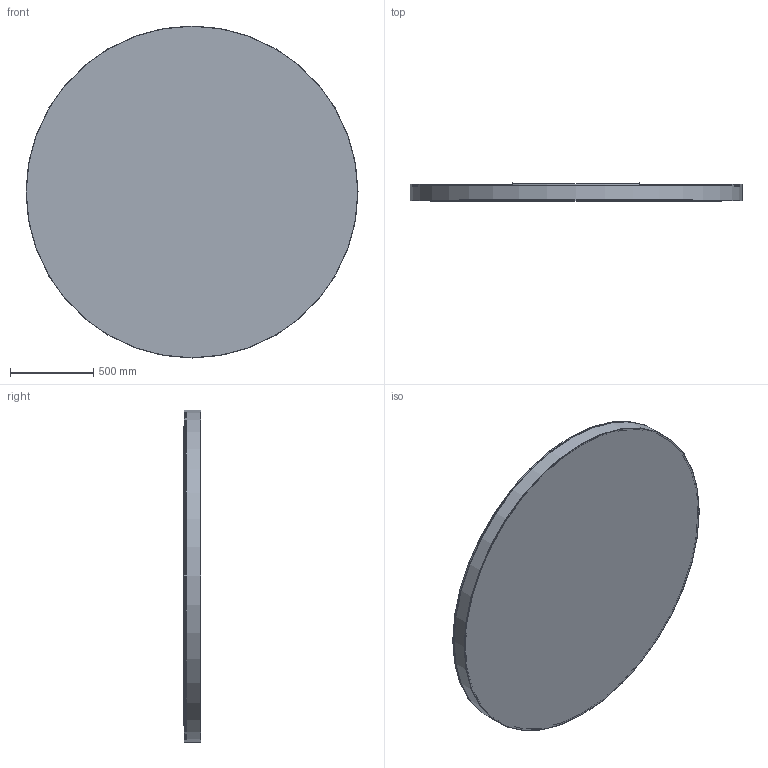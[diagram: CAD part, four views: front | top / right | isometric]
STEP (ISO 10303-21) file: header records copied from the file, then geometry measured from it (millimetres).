
FILE_DESCRIPTION(('STEP AP203'), '1');
FILE_NAME('Êîðïóñ 2000õ100', '', ('UNSPECIFIED'), ('UNSPECIFIED'), 'ASCON STEP Converter 1.6', 'ASCON Math Kernel', '');
FILE_SCHEMA(('CONFIG_CONTROL_DESIGN'));
Length unit declared in the file: millimetre
Bounding box: 2000 x 107 x 2000 mm (x, y, z)
Volume: 24842371.1 mm3; surface area: 21516946.6 mm2
Topology: 6 solids, 7 shells, 33 faces, 57 edges, 38 vertices
Faces by surface type: plane 26, cylinder 7
Full cylindrical faces by diameter (mm): 1978.2 x1, 1997 x2, 1998.2 x2, 1999 x1, 2000 x1
Entity records: 1090 total; most frequent: DIRECTION 132, CARTESIAN_POINT 122, ORIENTED_EDGE 100, EDGE_CURVE 50, AXIS2_PLACEMENT_3D 48, EDGE_LOOP 44, COLOUR_RGB 39, FILL_AREA_STYLE_COLOUR 39
